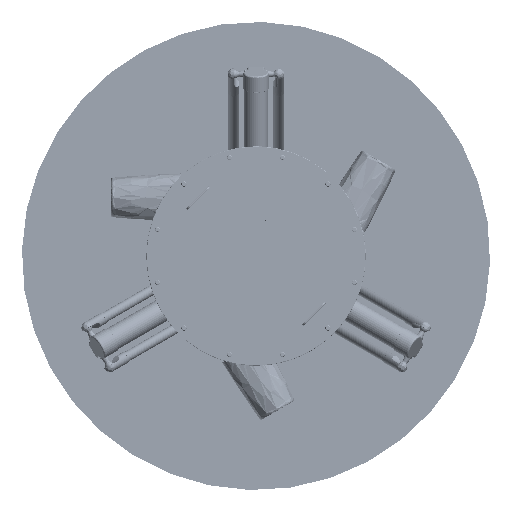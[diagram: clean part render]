
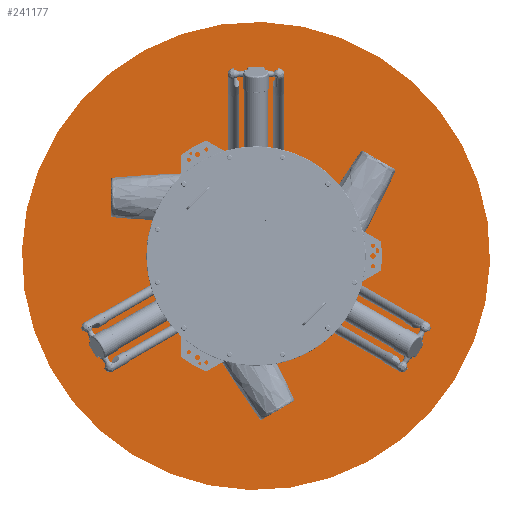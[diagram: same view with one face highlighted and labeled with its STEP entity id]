
A CAD part, front view. The second image highlights one B-rep face of the part: STEP entity #241177.
In plain terms, the highlighted planar face has unit normal (0, -1, 0) as drawn and (0, 1, 0) by its records, which use the part's own axes.
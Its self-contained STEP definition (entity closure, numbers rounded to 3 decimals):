
#5920 = CARTESIAN_POINT ( 'NONE',  ( 0., 400., 0. ) ) ;
#83417 = EDGE_LOOP ( 'NONE', ( #99668 ) ) ;
#85334 = AXIS2_PLACEMENT_3D ( 'NONE', #242809, #120353, #240779 ) ;
#99494 = EDGE_CURVE ( 'NONE', #107538, #107538, #260715, .T. ) ;
#99668 = ORIENTED_EDGE ( 'NONE', *, *, #99494, .F. ) ;
#102169 = DIRECTION ( 'NONE',  ( 0., 0., -1. ) ) ;
#107538 = VERTEX_POINT ( 'NONE', #173974 ) ;
#111002 = FACE_OUTER_BOUND ( 'NONE', #83417, .T. ) ;
#120353 = DIRECTION ( 'NONE',  ( 0., -1., 0. ) ) ;
#123487 = PLANE ( 'NONE',  #85334 ) ;
#138846 = AXIS2_PLACEMENT_3D ( 'NONE', #5920, #220433, #102169 ) ;
#173974 = CARTESIAN_POINT ( 'NONE',  ( 0., 400., -800. ) ) ;
#220433 = DIRECTION ( 'NONE',  ( 0., -1., 0. ) ) ;
#240779 = DIRECTION ( 'NONE',  ( 0., 0., -1. ) ) ;
#241177 = ADVANCED_FACE ( 'NONE', ( #111002 ), #123487, .F. ) ;
#242809 = CARTESIAN_POINT ( 'NONE',  ( 0., 400., 0. ) ) ;
#260715 = CIRCLE ( 'NONE', #138846, 800. ) ;
